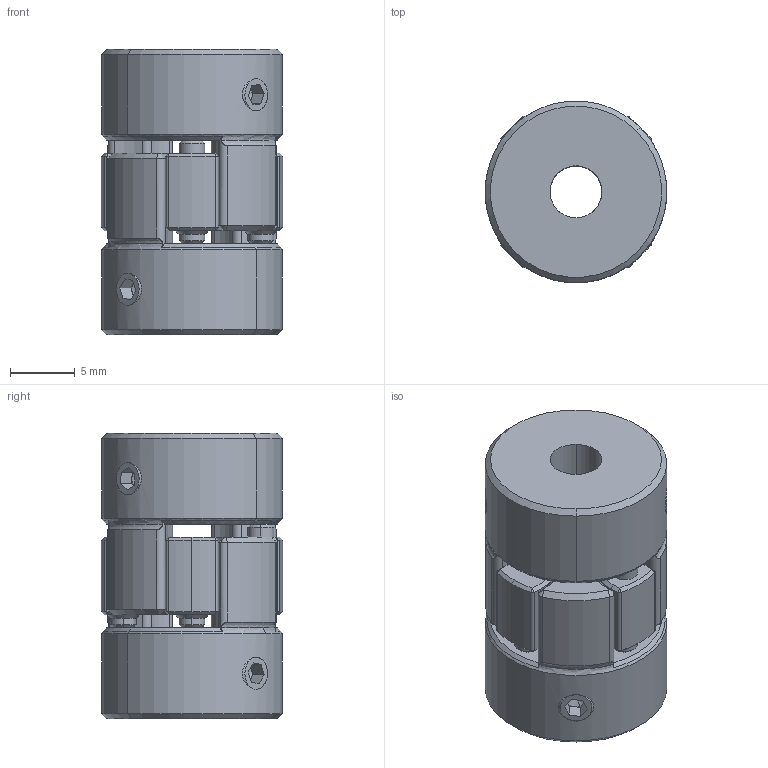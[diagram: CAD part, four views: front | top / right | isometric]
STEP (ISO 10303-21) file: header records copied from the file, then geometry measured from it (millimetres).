
FILE_DESCRIPTION (( 'STEP AP203' ), '1' );
FILE_NAME ('LF-D-D14L22-4-4.STEP', '2021-10-26T05:38:45', ( '' ), ( '' ), 'SwSTEP 2.0', 'SolidWorks 2018', '' );
FILE_SCHEMA (( 'CONFIG_CONTROL_DESIGN' ));
Length unit declared in the file: millimetre
Products named in the file (1): LF-D-D14L22-4-4
Bounding box: 14 x 14 x 22 mm (x, y, z)
Volume: 2784 mm3; surface area: 2144.7 mm2
Topology: 1 solids, 1 shells, 353 faces, 891 edges, 516 vertices
Faces by surface type: cone 164, cylinder 115, plane 66, torus 8
Entity records: 10877 total; most frequent: CARTESIAN_POINT 2230, DIRECTION 1947, ORIENTED_EDGE 1734, EDGE_CURVE 867, AXIS2_PLACEMENT_3D 784, VERTEX_POINT 516, CIRCLE 430, EDGE_LOOP 383
